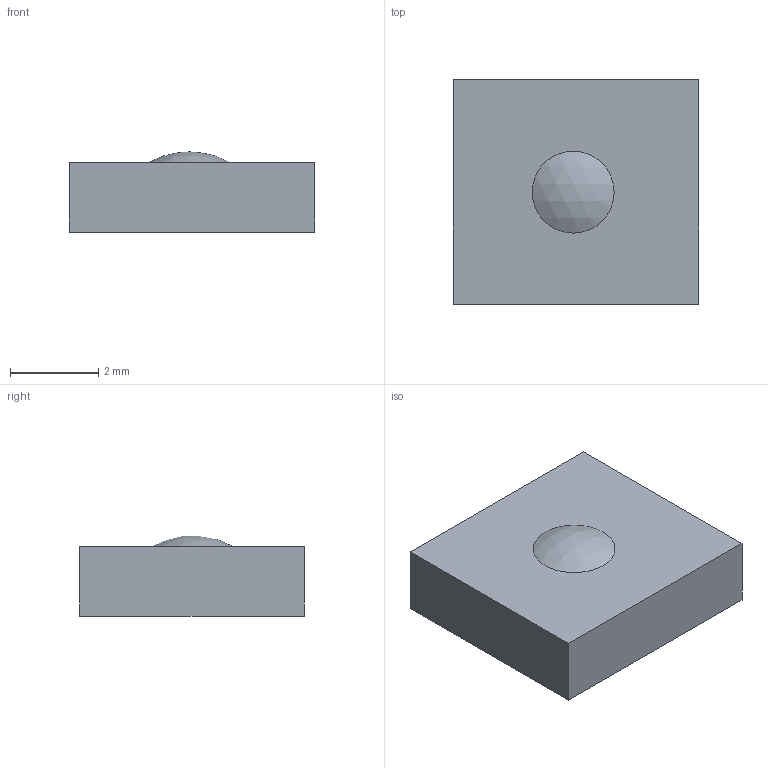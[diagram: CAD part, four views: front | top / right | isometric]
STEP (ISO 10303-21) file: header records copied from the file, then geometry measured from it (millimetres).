
FILE_DESCRIPTION((''),'1');
FILE_NAME('C:/Users/ericfrey/Desktop/407-5882-00 REV 02 SINGLE EMBOSS.stp', '2015-10-12T17:03:17',(''), (''), 'KCM Version 1.1.1442.0', 'Kubotek KeyCreator', '');
FILE_SCHEMA(('AUTOMOTIVE_DESIGN'));
Length unit declared in the file: inch
Bounding box: 5.56 x 5.09 x 1.82 mm (x, y, z)
Volume: 44.9 mm3; surface area: 90.6 mm2
Topology: 1 solids, 1 shells, 8 faces, 16 edges, 11 vertices
Faces by surface type: plane 6, sphere 2
Entity records: 231 total; most frequent: DIRECTION 36, CARTESIAN_POINT 35, ORIENTED_EDGE 30, EDGE_CURVE 15, AXIS2_PLACEMENT_3D 12, VECTOR 12, LINE 12, VERTEX_POINT 11
